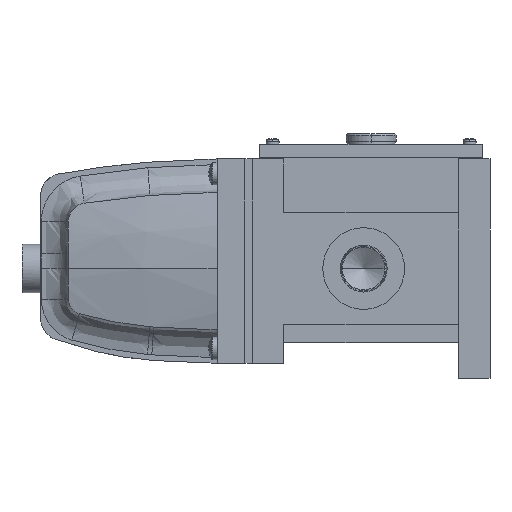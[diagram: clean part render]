
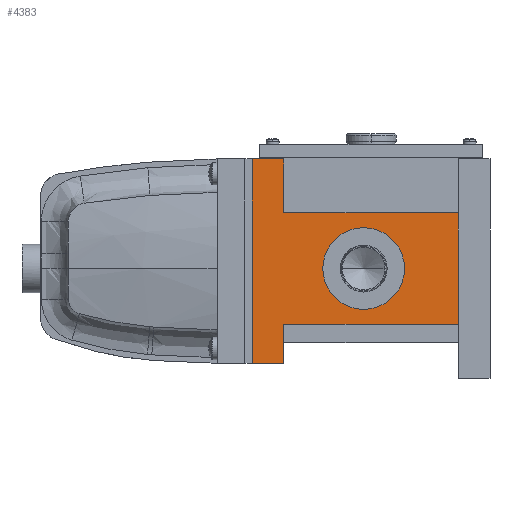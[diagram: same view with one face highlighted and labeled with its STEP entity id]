
A CAD part, left-side view. The second image highlights one B-rep face of the part: STEP entity #4383.
In plain terms, the highlighted planar face has unit normal (-1, 0, 0).
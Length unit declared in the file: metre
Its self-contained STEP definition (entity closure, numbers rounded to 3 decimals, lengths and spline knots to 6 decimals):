
#93 = CIRCLE ( 'NONE', #7384, 0.022 ) ;
#214 = LINE ( 'NONE', #384, #10804 ) ;
#384 = CARTESIAN_POINT ( 'NONE',  ( -0.045, 0.0725, -0.03 ) ) ;
#456 = DIRECTION ( 'NONE',  ( 0., -1., 0. ) ) ;
#548 = EDGE_LOOP ( 'NONE', ( #4334, #6197 ) ) ;
#776 = DIRECTION ( 'NONE',  ( 0., 0., 1. ) ) ;
#1047 = CARTESIAN_POINT ( 'NONE',  ( -0.045, 0.068, 0. ) ) ;
#1518 = CARTESIAN_POINT ( 'NONE',  ( -0.045, 0.111, 0.03 ) ) ;
#1544 = CARTESIAN_POINT ( 'NONE',  ( -0.045, 0.068, 0. ) ) ;
#1647 = CARTESIAN_POINT ( 'NONE',  ( -0.045, 0.017, -0.051 ) ) ;
#1650 = LINE ( 'NONE', #13276, #7597 ) ;
#2084 = DIRECTION ( 'NONE',  ( 0., 1., 0. ) ) ;
#2164 = EDGE_CURVE ( 'NONE', #8554, #2313, #13151, .T. ) ;
#2313 = VERTEX_POINT ( 'NONE', #3279 ) ;
#2587 = DIRECTION ( 'NONE',  ( 0., 1., 0. ) ) ;
#2607 = LINE ( 'NONE', #5793, #5477 ) ;
#2643 = CARTESIAN_POINT ( 'NONE',  ( -0.045, 0.111, -0.03 ) ) ;
#3004 = LINE ( 'NONE', #10920, #5543 ) ;
#3119 = VERTEX_POINT ( 'NONE', #5627 ) ;
#3139 = VERTEX_POINT ( 'NONE', #1518 ) ;
#3193 = EDGE_CURVE ( 'NONE', #13260, #3139, #1650, .T. ) ;
#3279 = CARTESIAN_POINT ( 'NONE',  ( -0.045, 0.128, 0.059 ) ) ;
#3513 = DIRECTION ( 'NONE',  ( 0., 0., 1. ) ) ;
#3705 = CARTESIAN_POINT ( 'NONE',  ( -0.045, 0.128, -0.051 ) ) ;
#3795 = DIRECTION ( 'NONE',  ( -1., 0., 0. ) ) ;
#3799 = EDGE_CURVE ( 'NONE', #8554, #3119, #2607, .T. ) ;
#3812 = VERTEX_POINT ( 'NONE', #5839 ) ;
#4294 = FACE_BOUND ( 'NONE', #548, .T. ) ;
#4334 = ORIENTED_EDGE ( 'NONE', *, *, #4939, .T. ) ;
#4383 = ADVANCED_FACE ( 'NONE', ( #4294, #12105 ), #6949, .T. ) ;
#4751 = EDGE_CURVE ( 'NONE', #3139, #3812, #6941, .T. ) ;
#4939 = EDGE_CURVE ( 'NONE', #11120, #11632, #10546, .T. ) ;
#5019 = ORIENTED_EDGE ( 'NONE', *, *, #12435, .T. ) ;
#5364 = CARTESIAN_POINT ( 'NONE',  ( -0.045, 0.1195, 0.059 ) ) ;
#5477 = VECTOR ( 'NONE', #456, 1. ) ;
#5543 = VECTOR ( 'NONE', #3513, 1. ) ;
#5627 = CARTESIAN_POINT ( 'NONE',  ( -0.045, 0.111, -0.051 ) ) ;
#5793 = CARTESIAN_POINT ( 'NONE',  ( -0.045, 0.1195, -0.051 ) ) ;
#5839 = CARTESIAN_POINT ( 'NONE',  ( -0.045, 0.111, 0.059 ) ) ;
#5860 = DIRECTION ( 'NONE',  ( 0., 1., 0. ) ) ;
#6197 = ORIENTED_EDGE ( 'NONE', *, *, #9938, .T. ) ;
#6312 = ORIENTED_EDGE ( 'NONE', *, *, #2164, .F. ) ;
#6559 = VECTOR ( 'NONE', #12785, 1. ) ;
#6800 = DIRECTION ( 'NONE',  ( 0., 0., 1. ) ) ;
#6941 = LINE ( 'NONE', #11343, #12270 ) ;
#6949 = PLANE ( 'NONE',  #12922 ) ;
#7191 = ORIENTED_EDGE ( 'NONE', *, *, #7494, .F. ) ;
#7366 = AXIS2_PLACEMENT_3D ( 'NONE', #1047, #8428, #2084 ) ;
#7384 = AXIS2_PLACEMENT_3D ( 'NONE', #1544, #8946, #2587 ) ;
#7494 = EDGE_CURVE ( 'NONE', #2313, #3812, #11871, .T. ) ;
#7597 = VECTOR ( 'NONE', #5860, 1. ) ;
#7741 = LINE ( 'NONE', #13168, #13431 ) ;
#7767 = VERTEX_POINT ( 'NONE', #8236 ) ;
#8236 = CARTESIAN_POINT ( 'NONE',  ( -0.045, 0.017, -0.03 ) ) ;
#8428 = DIRECTION ( 'NONE',  ( 1., 0., 0. ) ) ;
#8554 = VERTEX_POINT ( 'NONE', #3705 ) ;
#8841 = DIRECTION ( 'NONE',  ( 0., -1., 0. ) ) ;
#8946 = DIRECTION ( 'NONE',  ( 1., 0., 0. ) ) ;
#9076 = CARTESIAN_POINT ( 'NONE',  ( -0.045, 0.128, 0.004 ) ) ;
#9139 = ORIENTED_EDGE ( 'NONE', *, *, #13076, .T. ) ;
#9180 = CARTESIAN_POINT ( 'NONE',  ( -0.045, 0.017, 0.03 ) ) ;
#9339 = DIRECTION ( 'NONE',  ( 0., 0., 1. ) ) ;
#9887 = CARTESIAN_POINT ( 'NONE',  ( -0.045, 0.046, 0. ) ) ;
#9938 = EDGE_CURVE ( 'NONE', #11632, #11120, #93, .T. ) ;
#10242 = ORIENTED_EDGE ( 'NONE', *, *, #3799, .T. ) ;
#10280 = VECTOR ( 'NONE', #9339, 1. ) ;
#10546 = CIRCLE ( 'NONE', #7366, 0.022 ) ;
#10804 = VECTOR ( 'NONE', #8841, 1. ) ;
#10920 = CARTESIAN_POINT ( 'NONE',  ( -0.045, 0.111, 0.004 ) ) ;
#11120 = VERTEX_POINT ( 'NONE', #13102 ) ;
#11207 = DIRECTION ( 'NONE',  ( 0., 0., 1. ) ) ;
#11234 = ORIENTED_EDGE ( 'NONE', *, *, #12403, .T. ) ;
#11343 = CARTESIAN_POINT ( 'NONE',  ( -0.045, 0.111, 0.004 ) ) ;
#11632 = VERTEX_POINT ( 'NONE', #9887 ) ;
#11871 = LINE ( 'NONE', #5364, #6559 ) ;
#12105 = FACE_OUTER_BOUND ( 'NONE', #13221, .T. ) ;
#12270 = VECTOR ( 'NONE', #776, 1. ) ;
#12299 = VERTEX_POINT ( 'NONE', #2643 ) ;
#12314 = ORIENTED_EDGE ( 'NONE', *, *, #4751, .T. ) ;
#12403 = EDGE_CURVE ( 'NONE', #3119, #12299, #3004, .T. ) ;
#12435 = EDGE_CURVE ( 'NONE', #12299, #7767, #214, .T. ) ;
#12785 = DIRECTION ( 'NONE',  ( 0., -1., 0. ) ) ;
#12922 = AXIS2_PLACEMENT_3D ( 'NONE', #1647, #3795, #11207 ) ;
#13076 = EDGE_CURVE ( 'NONE', #7767, #13260, #7741, .T. ) ;
#13102 = CARTESIAN_POINT ( 'NONE',  ( -0.045, 0.09, 0. ) ) ;
#13151 = LINE ( 'NONE', #9076, #10280 ) ;
#13168 = CARTESIAN_POINT ( 'NONE',  ( -0.045, 0.017, 0.004 ) ) ;
#13221 = EDGE_LOOP ( 'NONE', ( #6312, #10242, #11234, #5019, #9139, #13601, #12314, #7191 ) ) ;
#13260 = VERTEX_POINT ( 'NONE', #9180 ) ;
#13276 = CARTESIAN_POINT ( 'NONE',  ( -0.045, 0.0725, 0.03 ) ) ;
#13431 = VECTOR ( 'NONE', #6800, 1. ) ;
#13601 = ORIENTED_EDGE ( 'NONE', *, *, #3193, .T. ) ;
